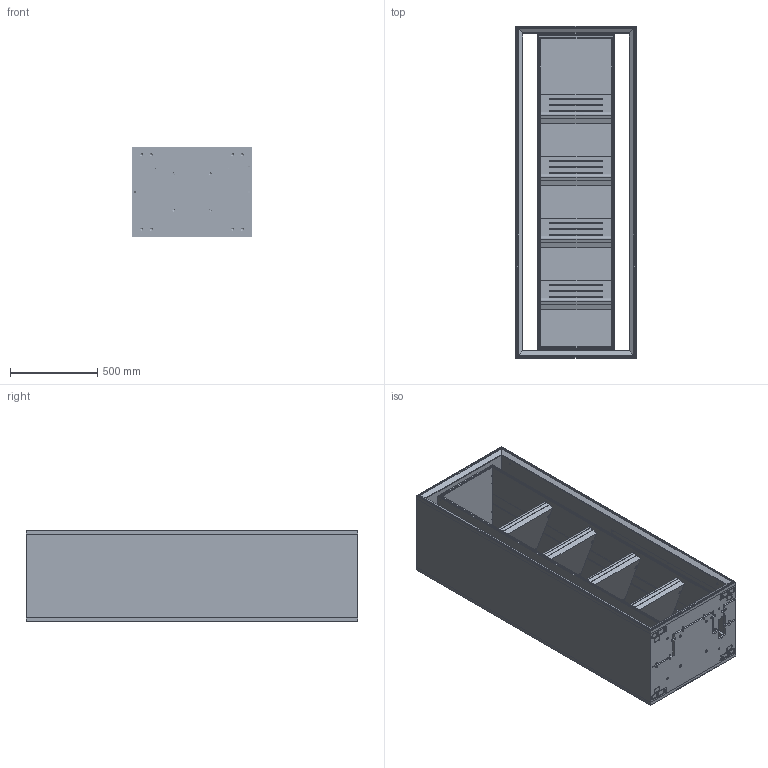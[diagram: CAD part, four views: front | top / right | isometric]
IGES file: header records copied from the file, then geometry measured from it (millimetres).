
Global section: file name: 80054; native system: Autodesk Inventor 2014; preprocessor: unknown; author: Robertom; date: 20140526.111812; units: millimetre
Bounding box: 690 x 1900 x 520 mm (x, y, z)
Volume: 147003294.6 mm3; surface area: 16327212.4 mm2
Topology: 88 solids, 88 shells, 2848 faces, 8304 edges, 5742 vertices
Faces by surface type: bspline 2848
